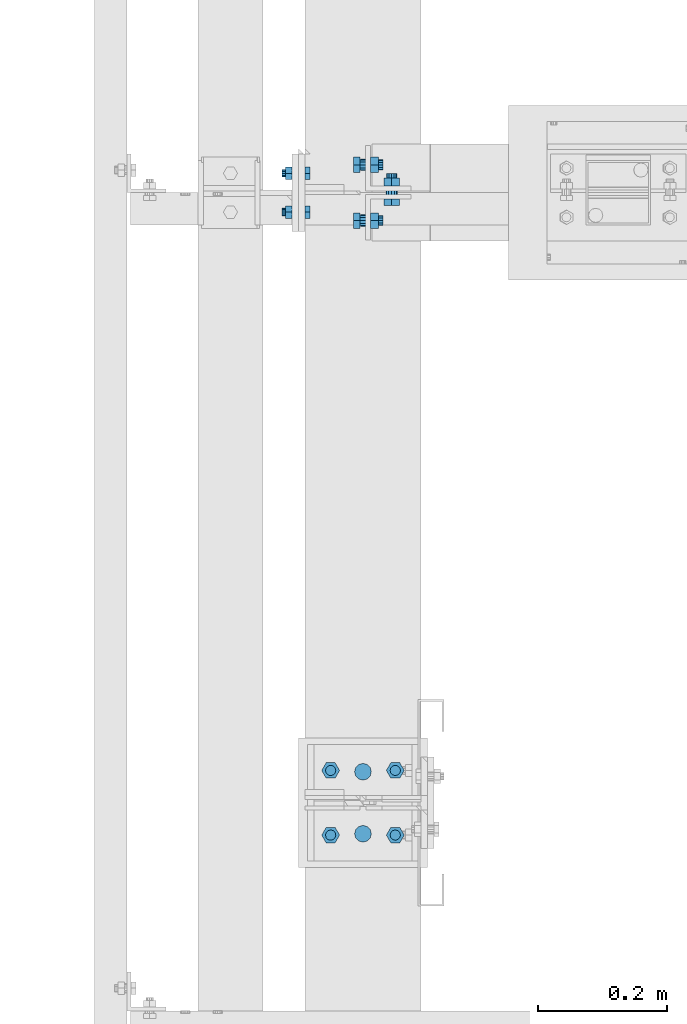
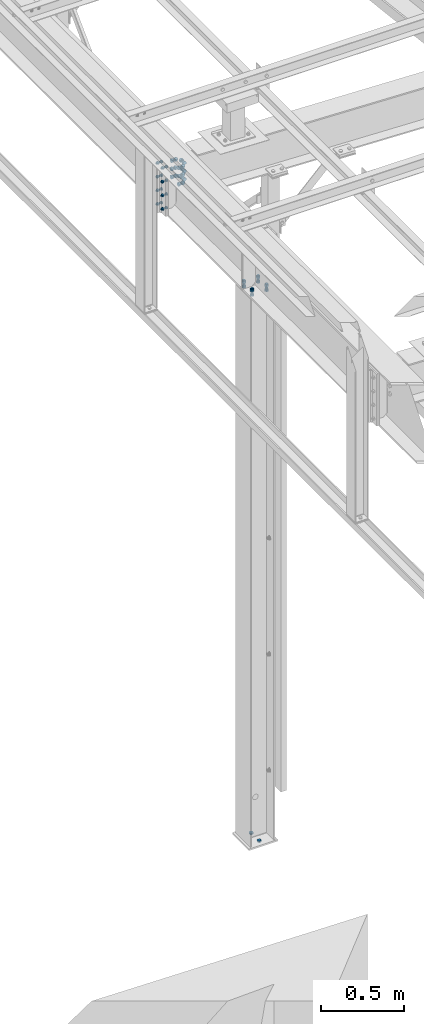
# One storey, part 68 of 3134: 7 mechanical fasteners, 4 elements without a shape of their own.
"""IFC2X3 building model written with IfcOpenShell, lengths in millimetres."""

from ifc_helpers import new_model, si_unit, frame, origin_with_axes, place, context, subcontext, project, spatial, faceted_brep, source, transform, mapped, material, type_object, element, aggregate, save


model = new_model("IFC2X3")

# Units and contexts
model_context = context("Model", 3, precision=1e-05, world=origin_with_axes())
body_context = subcontext(model_context, "Body", "Model", "MODEL_VIEW")
ifc_project = project(units=[si_unit("LENGTHUNIT", "METRE", prefix="MILLI"), si_unit("AREAUNIT", "SQUARE_METRE"), si_unit("VOLUMEUNIT", "CUBIC_METRE"), si_unit("MASSUNIT", "GRAM", prefix="KILO"), si_unit("TIMEUNIT", "SECOND"), si_unit("PLANEANGLEUNIT", "RADIAN"), si_unit("SOLIDANGLEUNIT", "STERADIAN"), si_unit("THERMODYNAMICTEMPERATUREUNIT", "DEGREE_CELSIUS"), si_unit("LUMINOUSINTENSITYUNIT", "LUMEN")], contexts=[model_context])

# Site, building, storey
site_placement = place(None, origin_with_axes())
site = spatial("IfcSite", under=ifc_project, at=site_placement, CompositionType="ELEMENT")
building_placement = place(site_placement, origin_with_axes())
building = spatial("IfcBuilding", under=site, at=building_placement, Name="Undefined", CompositionType="ELEMENT")
storey_placement = place(building_placement, origin_with_axes())
storey = spatial("IfcBuildingStorey", under=building, at=storey_placement, Name="Undefined", CompositionType="ELEMENT", Elevation=0.0)

# Assembly, mechanical fastener
assembly_1_placement = place(storey_placement, origin_with_axes())
assembly_1 = element("IfcElementAssembly", 1, at=assembly_1_placement, inside=storey, Name="HEA180", AssemblyPlace="NOTDEFINED", PredefinedType="RIGID_FRAME")
ifc_material = material(Name="8.8")
mechanical_fastener_type = type_object("IfcMechanicalFastenerType", Name="Bolt assembly")
shared_shape_1 = source(origin_with_axes(), body_context, "Body", "Brep", [
    faceted_brep([(13.0, 0.0, 0.0), (11.2583302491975, 0.0, 6.50000000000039), (6.49999999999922, 0.0, 11.2583302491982), (-1.34723677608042e-12, 0.0, 13.0), (-6.50000000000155, 0.0, 11.2583302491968), (-11.2583302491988, 0.0, 6.49999999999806), (-13.0, 0.0, -2.69447355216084e-12), (-11.2583302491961, 0.0, -6.50000000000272), (-6.4999999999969, 0.0, -11.2583302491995), (4.02727742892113e-12, 0.0, -13.0), (6.50000000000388, 0.0, -11.2583302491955), (11.2583302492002, 0.0, -6.49999999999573), (11.2583302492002, 12.1, -6.49999999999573), (6.50000000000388, 12.1, -11.2583302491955), (4.02727742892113e-12, 12.1, -13.0), (-6.4999999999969, 12.1, -11.2583302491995), (-11.2583302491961, 12.1, -6.50000000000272), (-13.0, 12.1, -2.69447355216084e-12), (-11.2583302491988, 12.1, 6.49999999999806), (-6.50000000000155, 12.1, 11.2583302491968), (-1.34723677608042e-12, 12.1, 13.0), (6.49999999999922, 12.1, 11.2583302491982), (11.2583302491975, 12.1, 6.50000000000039), (13.0, 12.1, 0.0)], [[[0, 1, 2, 3, 4, 5, 6, 7, 8, 9, 10, 11]], [[12, 13, 14, 15, 16, 17, 18, 19, 20, 21, 22, 23]], [[0, 23, 22, 1]], [[1, 22, 21, 2]], [[2, 21, 20, 3]], [[3, 20, 19, 4]], [[4, 19, 18, 5]], [[5, 18, 17, 6]], [[6, 17, 16, 7]], [[7, 16, 15, 8]], [[8, 15, 14, 9]], [[9, 14, 13, 10]], [[10, 13, 12, 11]], [[11, 12, 23, 0]]]),
])
mechanical_fastener_1_placement = place(assembly_1_placement, frame((0.0, 26100.0, -400.0), z_axis=(0.0, 1.0, 0.0), x_axis=(-1.0, 0.0, 0.0)))
mechanical_fastener_1 = element("IfcMechanicalFastener", 2, at=mechanical_fastener_1_placement, type_object=mechanical_fastener_type, material=ifc_material, Name="Bolt assembly", NominalDiameter=24.0, NominalLength=12.0, context=body_context, shape_type="MappedRepresentation", body=[
    mapped(shared_shape_1, transform((0.0, 0.0, -48.0))),
    mapped(shared_shape_1, transform((0.0, 0.0, 48.0))),
])

assembly_2_placement = place(storey_placement, origin_with_axes())
assembly_2 = element("IfcElementAssembly", 3, at=assembly_2_placement, inside=storey, Name="IPE400", AssemblyPlace="NOTDEFINED", PredefinedType="RIGID_FRAME")
shared_shape_2 = source(origin_with_axes(), body_context, "Body", "Brep", [
    faceted_brep([(10.9696551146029, -18.0, 0.0), (5.48482755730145, -18.0, 9.5), (-5.48482755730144, -18.0, 9.5), (-10.9696551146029, -18.0, 1.34339530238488e-15), (-5.48482755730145, -18.0, -9.5), (5.48482755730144, -18.0, -9.50000000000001), (5.48482755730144, -10.0, -9.50000000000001), (-5.48482755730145, -10.0, -9.5), (-10.9696551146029, -10.0, 1.34339530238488e-15), (-5.48482755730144, -10.0, 9.5), (5.48482755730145, -10.0, 9.5), (10.9696551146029, -10.0, 0.0), (6.0, -10.0, 0.0), (5.19615242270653, -10.0, 3.00000000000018), (2.99999999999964, -10.0, 5.19615242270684), (-6.21801588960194e-13, -10.0, 6.0), (-3.00000000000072, -10.0, 5.19615242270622), (-5.19615242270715, -10.0, 2.9999999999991), (-6.0, -10.0, -1.24360317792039e-12), (-5.19615242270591, -10.0, -3.00000000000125), (-2.99999999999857, -10.0, -5.19615242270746), (1.85874342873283e-12, -10.0, -6.0), (3.00000000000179, -10.0, -5.1961524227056), (5.19615242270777, -10.0, -2.99999999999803), (5.19615242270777, 24.9999999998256, -2.99999999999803), (3.00000000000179, 24.9999999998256, -5.1961524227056), (1.85874342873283e-12, 24.9999999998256, -6.0), (-2.99999999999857, 24.9999999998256, -5.19615242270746), (-5.19615242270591, 24.9999999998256, -3.00000000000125), (-6.0, 24.9999999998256, -1.24360317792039e-12), (-5.19615242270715, 24.9999999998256, 2.9999999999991), (-3.00000000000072, 24.9999999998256, 5.19615242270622), (-6.21801588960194e-13, 24.9999999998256, 6.0), (2.99999999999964, 24.9999999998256, 5.19615242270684), (5.19615242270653, 24.9999999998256, 3.00000000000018), (6.0, 24.9999999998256, 0.0), (10.9696551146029, 10.0, 0.0), (5.48482755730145, 10.0, 9.5), (-5.48482755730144, 10.0, 9.5), (-10.9696551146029, 10.0, 1.34339530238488e-15), (-5.48482755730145, 10.0, -9.5), (5.48482755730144, 10.0, -9.50000000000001), (5.48482755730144, 20.0, -9.50000000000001), (-5.48482755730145, 20.0, -9.5), (-10.9696551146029, 20.0, 1.34339530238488e-15), (-5.48482755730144, 20.0, 9.5), (5.48482755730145, 20.0, 9.5), (10.9696551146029, 20.0, 0.0)], [[[0, 1, 2, 3, 4, 5]], [[6, 7, 8, 9, 10, 11]], [[0, 11, 10, 1]], [[1, 10, 9, 2]], [[2, 9, 8, 3]], [[3, 8, 7, 4]], [[4, 7, 6, 5]], [[5, 6, 11, 0]], [[12, 13, 14, 15, 16, 17, 18, 19, 20, 21, 22, 23]], [[24, 25, 26, 27, 28, 29, 30, 31, 32, 33, 34, 35]], [[12, 35, 34, 13]], [[13, 34, 33, 14]], [[14, 33, 32, 15]], [[15, 32, 31, 16]], [[16, 31, 30, 17]], [[17, 30, 29, 18]], [[18, 29, 28, 19]], [[19, 28, 27, 20]], [[20, 27, 26, 21]], [[21, 26, 25, 22]], [[22, 25, 24, 23]], [[23, 24, 35, 12]], [[36, 37, 38, 39, 40, 41]], [[42, 43, 44, 45, 46, 47]], [[36, 47, 46, 37]], [[37, 46, 45, 38]], [[38, 45, 44, 39]], [[39, 44, 43, 40]], [[40, 43, 42, 41]], [[41, 42, 47, 36]]]),
    faceted_brep([(7.0, -0.1, 0.0), (6.06217782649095, -0.1, 3.50000000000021), (3.49999999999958, -0.1, 6.06217782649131), (-7.25435187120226e-13, -0.1, 7.0), (-3.50000000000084, -0.1, 6.06217782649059), (-6.06217782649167, -0.1, 3.49999999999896), (-7.0, -0.1, -1.45087037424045e-12), (-6.06217782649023, -0.1, -3.50000000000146), (-3.49999999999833, -0.1, -6.06217782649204), (2.1685340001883e-12, -0.1, -7.0), (3.50000000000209, -0.1, -6.06217782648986), (6.0621778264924, -0.1, -3.4999999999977), (6.0621778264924, 10.0, -3.4999999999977), (3.50000000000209, 10.0, -6.06217782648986), (2.1685340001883e-12, 10.0, -7.0), (-3.49999999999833, 10.0, -6.06217782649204), (-6.06217782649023, 10.0, -3.50000000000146), (-7.0, 10.0, -1.45087037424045e-12), (-6.06217782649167, 10.0, 3.49999999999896), (-3.50000000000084, 10.0, 6.06217782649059), (-7.25435187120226e-13, 10.0, 7.0), (3.49999999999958, 10.0, 6.06217782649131), (6.06217782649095, 10.0, 3.50000000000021), (7.0, 10.0, 0.0), (7.0, -9.89999913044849, 0.0), (6.06217782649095, -9.89999913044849, 3.50000000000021), (3.49999999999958, -9.89999913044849, 6.06217782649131), (-7.25435187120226e-13, -9.89999913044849, 7.0), (-3.50000000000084, -9.89999913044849, 6.06217782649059), (-6.06217782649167, -9.89999913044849, 3.49999999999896), (-7.0, -9.89999913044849, -1.45087037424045e-12), (-6.06217782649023, -9.89999913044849, -3.50000000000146), (-3.49999999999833, -9.89999913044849, -6.06217782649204), (2.1685340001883e-12, -9.89999913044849, -7.0), (3.50000000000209, -9.89999913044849, -6.06217782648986), (6.0621778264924, -9.89999913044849, -3.4999999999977), (6.0621778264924, 0.0999999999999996, -3.4999999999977), (3.50000000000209, 0.0999999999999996, -6.06217782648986), (2.1685340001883e-12, 0.0999999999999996, -7.0), (-3.49999999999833, 0.0999999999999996, -6.06217782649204), (-6.06217782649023, 0.0999999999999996, -3.50000000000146), (-7.0, 0.0999999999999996, -1.45087037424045e-12), (-6.06217782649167, 0.0999999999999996, 3.49999999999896), (-3.50000000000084, 0.0999999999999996, 6.06217782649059), (-7.25435187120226e-13, 0.0999999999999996, 7.0), (3.49999999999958, 0.0999999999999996, 6.06217782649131), (6.06217782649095, 0.0999999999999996, 3.50000000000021), (7.0, 0.0999999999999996, 0.0)], [[[0, 1, 2, 3, 4, 5, 6, 7, 8, 9, 10, 11]], [[12, 13, 14, 15, 16, 17, 18, 19, 20, 21, 22, 23]], [[0, 23, 22, 1]], [[1, 22, 21, 2]], [[2, 21, 20, 3]], [[3, 20, 19, 4]], [[4, 19, 18, 5]], [[5, 18, 17, 6]], [[6, 17, 16, 7]], [[7, 16, 15, 8]], [[8, 15, 14, 9]], [[9, 14, 13, 10]], [[10, 13, 12, 11]], [[11, 12, 23, 0]], [[24, 25, 26, 27, 28, 29, 30, 31, 32, 33, 34, 35]], [[36, 37, 38, 39, 40, 41, 42, 43, 44, 45, 46, 47]], [[24, 47, 46, 25]], [[25, 46, 45, 26]], [[26, 45, 44, 27]], [[27, 44, 43, 28]], [[28, 43, 42, 29]], [[29, 42, 41, 30]], [[30, 41, 40, 31]], [[31, 40, 39, 32]], [[32, 39, 38, 33]], [[33, 38, 37, 34]], [[34, 37, 36, 35]], [[35, 36, 47, 24]]]),
])
mechanical_fastener_2_placement = place(assembly_2_placement, frame((-100.0, 27043.75, 3990.0), z_axis=(0.0, 1.0, 0.0), x_axis=(0.0, 0.0, -1.0)))
mechanical_fastener_2 = element("IfcMechanicalFastener", 4, at=mechanical_fastener_2_placement, type_object=mechanical_fastener_type, material=ifc_material, Name="Bolt assembly", NominalDiameter=12.0, NominalLength=35.0, context=body_context, shape_type="MappedRepresentation", body=[
    mapped(shared_shape_2, transform((0.0, 4.54747350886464e-13, -30.0000000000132))),
    mapped(shared_shape_2, transform((100.0, 0.0, -30.0))),
    mapped(shared_shape_2, transform((200.0, 0.0, -30.0))),
    mapped(shared_shape_2, transform((300.0, 0.0, -30.0))),
    mapped(shared_shape_2, transform((0.0, 4.54747350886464e-13, 30.0000000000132))),
    mapped(shared_shape_2, transform((100.0, 0.0, 30.0))),
    mapped(shared_shape_2, transform((200.0, 0.0, 30.0))),
    mapped(shared_shape_2, transform((300.0, 0.0, 30.0))),
])
aggregate(assembly_2, [mechanical_fastener_2])

# Mechanical fastener
shared_shape_3 = source(origin_with_axes(), body_context, "Body", "Brep", [
    faceted_brep([(13.856406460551, -10.0, 0.0), (6.92820323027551, -10.0, 12.0), (-6.92820323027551, -10.0, 12.0), (-13.856406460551, -10.0, 1.69692038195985e-15), (-6.92820323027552, -10.0, -12.0), (6.9282032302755, -10.0, -12.0), (6.9282032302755, 0.0, -12.0), (-6.92820323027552, 0.0, -12.0), (-13.856406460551, 0.0, 1.69692038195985e-15), (-6.92820323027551, 0.0, 12.0), (6.92820323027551, 0.0, 12.0), (13.856406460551, 0.0, 0.0), (8.0, 0.0, 0.0), (6.92820323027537, 0.0, 4.00000000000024), (3.99999999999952, 0.0, 6.92820323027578), (-8.29068785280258e-13, 0.0, 8.0), (-4.00000000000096, 0.0, 6.92820323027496), (-6.9282032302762, 0.0, 3.99999999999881), (-8.0, 0.0, -1.65813757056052e-12), (-6.92820323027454, 0.0, -4.00000000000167), (-3.99999999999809, 0.0, -6.92820323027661), (2.47832457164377e-12, 0.0, -8.0), (4.00000000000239, 0.0, -6.92820323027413), (6.92820323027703, 0.0, -3.99999999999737), (6.92820323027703, 45.0, -3.99999999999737), (4.00000000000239, 45.0, -6.92820323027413), (2.47832457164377e-12, 45.0, -8.0), (-3.99999999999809, 45.0, -6.92820323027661), (-6.92820323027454, 45.0, -4.00000000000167), (-8.0, 45.0, -1.65813757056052e-12), (-6.9282032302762, 45.0, 3.99999999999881), (-4.00000000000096, 45.0, 6.92820323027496), (-8.29068785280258e-13, 45.0, 8.0), (3.99999999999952, 45.0, 6.92820323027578), (6.92820323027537, 45.0, 4.00000000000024), (8.0, 45.0, 0.0), (13.856406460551, 25.5, 0.0), (6.92820323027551, 25.5, 12.0), (-6.92820323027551, 25.5, 12.0), (-13.856406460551, 25.5, 1.69692038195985e-15), (-6.92820323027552, 25.5, -12.0), (6.9282032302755, 25.5, -12.0), (6.9282032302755, 38.5, -12.0), (-6.92820323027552, 38.5, -12.0), (-13.856406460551, 38.5, 1.69692038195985e-15), (-6.92820323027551, 38.5, 12.0), (6.92820323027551, 38.5, 12.0), (13.856406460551, 38.5, 0.0)], [[[0, 1, 2, 3, 4, 5]], [[6, 7, 8, 9, 10, 11]], [[0, 11, 10, 1]], [[1, 10, 9, 2]], [[2, 9, 8, 3]], [[3, 8, 7, 4]], [[4, 7, 6, 5]], [[5, 6, 11, 0]], [[12, 13, 14, 15, 16, 17, 18, 19, 20, 21, 22, 23]], [[24, 25, 26, 27, 28, 29, 30, 31, 32, 33, 34, 35]], [[12, 35, 34, 13]], [[13, 34, 33, 14]], [[14, 33, 32, 15]], [[15, 32, 31, 16]], [[16, 31, 30, 17]], [[17, 30, 29, 18]], [[18, 29, 28, 19]], [[19, 28, 27, 20]], [[20, 27, 26, 21]], [[21, 26, 25, 22]], [[22, 25, 24, 23]], [[23, 24, 35, 12]], [[36, 37, 38, 39, 40, 41]], [[42, 43, 44, 45, 46, 47]], [[36, 47, 46, 37]], [[37, 46, 45, 38]], [[38, 45, 44, 39]], [[39, 44, 43, 40]], [[40, 43, 42, 41]], [[41, 42, 47, 36]]]),
    faceted_brep([(9.0, 11.9, 0.0), (7.79422863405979, 11.9, 4.50000000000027), (4.49999999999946, 11.9, 7.79422863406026), (-9.3270238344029e-13, 11.9, 9.0), (-4.50000000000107, 11.9, 7.79422863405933), (-7.79422863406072, 11.9, 4.49999999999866), (-9.0, 11.9, -1.86540476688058e-12), (-7.79422863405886, 11.9, -4.50000000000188), (-4.49999999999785, 11.9, -7.79422863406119), (2.78811514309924e-12, 11.9, -9.0), (4.50000000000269, 11.9, -7.7942286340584), (7.79422863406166, 11.9, -4.49999999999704), (7.79422863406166, 25.5, -4.49999999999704), (4.50000000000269, 25.5, -7.7942286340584), (2.78811514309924e-12, 25.5, -9.0), (-4.49999999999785, 25.5, -7.79422863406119), (-7.79422863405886, 25.5, -4.50000000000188), (-9.0, 25.5, -1.86540476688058e-12), (-7.79422863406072, 25.5, 4.49999999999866), (-4.50000000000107, 25.5, 7.79422863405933), (-9.3270238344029e-13, 25.5, 9.0), (4.49999999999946, 25.5, 7.79422863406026), (7.79422863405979, 25.5, 4.50000000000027), (9.0, 25.5, 0.0), (9.0, 0.100000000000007, 0.0), (7.79422863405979, 0.100000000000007, 4.50000000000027), (4.49999999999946, 0.100000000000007, 7.79422863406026), (-9.3270238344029e-13, 0.100000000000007, 9.0), (-4.50000000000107, 0.100000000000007, 7.79422863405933), (-7.79422863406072, 0.100000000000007, 4.49999999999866), (-9.0, 0.100000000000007, -1.86540476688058e-12), (-7.79422863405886, 0.100000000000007, -4.50000000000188), (-4.49999999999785, 0.100000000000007, -7.79422863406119), (2.78811514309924e-12, 0.100000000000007, -9.0), (4.50000000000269, 0.100000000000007, -7.7942286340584), (7.79422863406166, 0.100000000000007, -4.49999999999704), (7.79422863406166, 12.1, -4.49999999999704), (4.50000000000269, 12.1, -7.7942286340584), (2.78811514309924e-12, 12.1, -9.0), (-4.49999999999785, 12.1, -7.79422863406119), (-7.79422863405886, 12.1, -4.50000000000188), (-9.0, 12.1, -1.86540476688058e-12), (-7.79422863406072, 12.1, 4.49999999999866), (-4.50000000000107, 12.1, 7.79422863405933), (-9.3270238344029e-13, 12.1, 9.0), (4.49999999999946, 12.1, 7.79422863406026), (7.79422863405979, 12.1, 4.50000000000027), (9.0, 12.1, 0.0)], [[[0, 1, 2, 3, 4, 5, 6, 7, 8, 9, 10, 11]], [[12, 13, 14, 15, 16, 17, 18, 19, 20, 21, 22, 23]], [[0, 23, 22, 1]], [[1, 22, 21, 2]], [[2, 21, 20, 3]], [[3, 20, 19, 4]], [[4, 19, 18, 5]], [[5, 18, 17, 6]], [[6, 17, 16, 7]], [[7, 16, 15, 8]], [[8, 15, 14, 9]], [[9, 14, 13, 10]], [[10, 13, 12, 11]], [[11, 12, 23, 0]], [[24, 25, 26, 27, 28, 29, 30, 31, 32, 33, 34, 35]], [[36, 37, 38, 39, 40, 41, 42, 43, 44, 45, 46, 47]], [[24, 47, 46, 25]], [[25, 46, 45, 26]], [[26, 45, 44, 27]], [[27, 44, 43, 28]], [[28, 43, 42, 29]], [[29, 42, 41, 30]], [[30, 41, 40, 31]], [[31, 40, 39, 32]], [[32, 39, 38, 33]], [[33, 38, 37, 34]], [[34, 37, 36, 35]], [[35, 36, 47, 24]]]),
])
mechanical_fastener_3_placement = place(assembly_1_placement, frame((50.0, 26050.0, 3628.0), z_axis=(0.0, 1.0, 0.0), x_axis=(-1.0, 0.0, 0.0)))
mechanical_fastener_3 = element("IfcMechanicalFastener", 5, at=mechanical_fastener_3_placement, type_object=mechanical_fastener_type, material=ifc_material, Name="Bolt assembly", NominalDiameter=16.0, NominalLength=45.0, context=body_context, shape_type="MappedRepresentation", body=[
    mapped(shared_shape_3, transform((0.0, 0.0, 0.0))),
    mapped(shared_shape_3, transform((100.0, 0.0, 0.0))),
])

mechanical_fastener_4_placement = place(assembly_1_placement, frame((50.0, 26150.0, 3628.0), z_axis=(0.0, 1.0, 0.0), x_axis=(-1.0, 0.0, 0.0)))
mechanical_fastener_4 = element("IfcMechanicalFastener", 6, at=mechanical_fastener_4_placement, type_object=mechanical_fastener_type, material=ifc_material, Name="Bolt assembly", NominalDiameter=16.0, NominalLength=45.0, context=body_context, shape_type="MappedRepresentation", body=[
    mapped(shared_shape_3, transform((0.0, 0.0, 0.0))),
    mapped(shared_shape_3, transform((100.0, 0.0, 0.0))),
])

aggregate(assembly_1, [mechanical_fastener_3, mechanical_fastener_4, mechanical_fastener_1])

# Assembly, mechanical fastener
assembly_3_placement = place(storey_placement, origin_with_axes())
assembly_3 = element("IfcElementAssembly", 7, at=assembly_3_placement, inside=storey, AssemblyPlace="NOTDEFINED", PredefinedType="RIGID_FRAME")
shared_shape_4 = source(origin_with_axes(), body_context, "Body", "Brep", [
    faceted_brep([(13.856406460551, -18.5936482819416, 0.0), (6.92820323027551, -18.5936482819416, 12.0), (-6.92820323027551, -18.5936482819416, 12.0), (-13.856406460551, -18.5936482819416, 1.69692038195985e-15), (-6.92820323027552, -18.5936482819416, -12.0), (6.9282032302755, -18.5936482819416, -12.0), (6.9282032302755, -8.59364828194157, -12.0), (-6.92820323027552, -8.59364828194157, -12.0), (-13.856406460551, -8.59364828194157, 1.69692038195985e-15), (-6.92820323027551, -8.59364828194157, 12.0), (6.92820323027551, -8.59364828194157, 12.0), (13.856406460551, -8.59364828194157, 0.0), (8.0, -8.59364828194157, 0.0), (6.92820323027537, -8.59364828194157, 4.00000000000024), (3.99999999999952, -8.59364828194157, 6.92820323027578), (-8.29068785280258e-13, -8.59364828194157, 8.0), (-4.00000000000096, -8.59364828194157, 6.92820323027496), (-6.9282032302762, -8.59364828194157, 3.99999999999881), (-8.0, -8.59364828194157, -1.65813757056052e-12), (-6.92820323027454, -8.59364828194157, -4.00000000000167), (-3.99999999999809, -8.59364828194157, -6.92820323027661), (2.47832457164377e-12, -8.59364828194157, -8.0), (4.00000000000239, -8.59364828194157, -6.92820323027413), (6.92820323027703, -8.59364828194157, -3.99999999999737), (6.92820323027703, 26.4063517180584, -3.99999999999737), (4.00000000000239, 26.4063517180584, -6.92820323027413), (2.47832457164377e-12, 26.4063517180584, -8.0), (-3.99999999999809, 26.4063517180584, -6.92820323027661), (-6.92820323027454, 26.4063517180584, -4.00000000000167), (-8.0, 26.4063517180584, -1.65813757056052e-12), (-6.9282032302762, 26.4063517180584, 3.99999999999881), (-4.00000000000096, 26.4063517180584, 6.92820323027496), (-8.29068785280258e-13, 26.4063517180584, 8.0), (3.99999999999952, 26.4063517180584, 6.92820323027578), (6.92820323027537, 26.4063517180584, 4.00000000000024), (8.0, 26.4063517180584, 0.0), (13.856406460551, 7.0, 0.0), (6.92820323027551, 7.0, 12.0), (-6.92820323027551, 7.0, 12.0), (-13.856406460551, 7.0, 1.69692038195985e-15), (-6.92820323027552, 7.0, -12.0), (6.9282032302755, 7.0, -12.0), (6.9282032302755, 20.0, -12.0), (-6.92820323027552, 20.0, -12.0), (-13.856406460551, 20.0, 1.69692038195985e-15), (-6.92820323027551, 20.0, 12.0), (6.92820323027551, 20.0, 12.0), (13.856406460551, 20.0, 0.0)], [[[0, 1, 2, 3, 4, 5]], [[6, 7, 8, 9, 10, 11]], [[0, 11, 10, 1]], [[1, 10, 9, 2]], [[2, 9, 8, 3]], [[3, 8, 7, 4]], [[4, 7, 6, 5]], [[5, 6, 11, 0]], [[12, 13, 14, 15, 16, 17, 18, 19, 20, 21, 22, 23]], [[24, 25, 26, 27, 28, 29, 30, 31, 32, 33, 34, 35]], [[12, 35, 34, 13]], [[13, 34, 33, 14]], [[14, 33, 32, 15]], [[15, 32, 31, 16]], [[16, 31, 30, 17]], [[17, 30, 29, 18]], [[18, 29, 28, 19]], [[19, 28, 27, 20]], [[20, 27, 26, 21]], [[21, 26, 25, 22]], [[22, 25, 24, 23]], [[23, 24, 35, 12]], [[36, 37, 38, 39, 40, 41]], [[42, 43, 44, 45, 46, 47]], [[36, 47, 46, 37]], [[37, 46, 45, 38]], [[38, 45, 44, 39]], [[39, 44, 43, 40]], [[40, 43, 42, 41]], [[41, 42, 47, 36]]]),
    faceted_brep([(9.0, -8.49364828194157, 0.0), (7.79422863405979, -8.49364828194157, 4.50000000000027), (4.49999999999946, -8.49364828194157, 7.79422863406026), (-9.3270238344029e-13, -8.49364828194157, 9.0), (-4.50000000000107, -8.49364828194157, 7.79422863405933), (-7.79422863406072, -8.49364828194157, 4.49999999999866), (-9.0, -8.49364828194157, -1.86540476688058e-12), (-7.79422863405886, -8.49364828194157, -4.50000000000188), (-4.49999999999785, -8.49364828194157, -7.79422863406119), (2.78811514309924e-12, -8.49364828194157, -9.0), (4.50000000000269, -8.49364828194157, -7.7942286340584), (7.79422863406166, -8.49364828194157, -4.49999999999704), (7.79422863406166, 0.10635209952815, -4.49999999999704), (4.50000000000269, 0.10635209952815, -7.7942286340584), (2.78811514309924e-12, 0.10635209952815, -9.0), (-4.49999999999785, 0.10635209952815, -7.79422863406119), (-7.79422863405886, 0.10635209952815, -4.50000000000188), (-9.0, 0.10635209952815, -1.86540476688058e-12), (-7.79422863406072, 0.10635209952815, 4.49999999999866), (-4.50000000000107, 0.10635209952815, 7.79422863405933), (-9.3270238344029e-13, 0.10635209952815, 9.0), (4.49999999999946, 0.10635209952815, 7.79422863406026), (7.79422863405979, 0.10635209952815, 4.50000000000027), (9.0, 0.10635209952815, 0.0), (9.0, -0.1, 0.0), (7.79422863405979, -0.1, 4.50000000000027), (4.49999999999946, -0.1, 7.79422863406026), (-9.3270238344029e-13, -0.1, 9.0), (-4.50000000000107, -0.1, 7.79422863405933), (-7.79422863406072, -0.1, 4.49999999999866), (-9.0, -0.1, -1.86540476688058e-12), (-7.79422863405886, -0.1, -4.50000000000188), (-4.49999999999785, -0.1, -7.79422863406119), (2.78811514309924e-12, -0.1, -9.0), (4.50000000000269, -0.1, -7.7942286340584), (7.79422863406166, -0.1, -4.49999999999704), (7.79422863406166, 7.0, -4.49999999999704), (4.50000000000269, 7.0, -7.7942286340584), (2.78811514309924e-12, 7.0, -9.0), (-4.49999999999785, 7.0, -7.79422863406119), (-7.79422863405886, 7.0, -4.50000000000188), (-9.0, 7.0, -1.86540476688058e-12), (-7.79422863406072, 7.0, 4.49999999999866), (-4.50000000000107, 7.0, 7.79422863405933), (-9.3270238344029e-13, 7.0, 9.0), (4.49999999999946, 7.0, 7.79422863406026), (7.79422863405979, 7.0, 4.50000000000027), (9.0, 7.0, 0.0)], [[[0, 1, 2, 3, 4, 5, 6, 7, 8, 9, 10, 11]], [[12, 13, 14, 15, 16, 17, 18, 19, 20, 21, 22, 23]], [[0, 23, 22, 1]], [[1, 22, 21, 2]], [[2, 21, 20, 3]], [[3, 20, 19, 4]], [[4, 19, 18, 5]], [[5, 18, 17, 6]], [[6, 17, 16, 7]], [[7, 16, 15, 8]], [[8, 15, 14, 9]], [[9, 14, 13, 10]], [[10, 13, 12, 11]], [[11, 12, 23, 0]], [[24, 25, 26, 27, 28, 29, 30, 31, 32, 33, 34, 35]], [[36, 37, 38, 39, 40, 41, 42, 43, 44, 45, 46, 47]], [[24, 47, 46, 25]], [[25, 46, 45, 26]], [[26, 45, 44, 27]], [[27, 44, 43, 28]], [[28, 43, 42, 29]], [[29, 42, 41, 30]], [[30, 41, 40, 31]], [[31, 40, 39, 32]], [[32, 39, 38, 33]], [[33, 38, 37, 34]], [[34, 37, 36, 35]], [[35, 36, 47, 24]]]),
])
mechanical_fastener_5_placement = place(assembly_3_placement, frame((4.29364809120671, 27086.79, 3841.86727512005), z_axis=(0.0, 1.0, 0.0), x_axis=(0.0, 0.0, 1.0)))
mechanical_fastener_5 = element("IfcMechanicalFastener", 8, at=mechanical_fastener_5_placement, type_object=mechanical_fastener_type, material=ifc_material, Name="Bolt assembly", NominalDiameter=16.0, NominalLength=35.0, context=body_context, shape_type="MappedRepresentation", body=[
    mapped(shared_shape_4, transform((0.0, 0.0, 0.0))),
    mapped(shared_shape_4, transform((59.9999999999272, 0.0, 5.40239852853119e-10))),
    mapped(shared_shape_4, transform((120.0, 0.0, 0.0))),
])
aggregate(assembly_3, [mechanical_fastener_5])

# Assembly, mechanical fasteners
assembly_4_placement = place(storey_placement, origin_with_axes())
assembly_4 = element("IfcElementAssembly", 9, at=assembly_4_placement, inside=storey, AssemblyPlace="NOTDEFINED", PredefinedType="RIGID_FRAME")
mechanical_fastener_6_placement = place(assembly_4_placement, frame((4.29364809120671, 27000.71, 3841.86727512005), z_axis=(0.0, 1.0, 0.0), x_axis=(0.0, 0.0, 1.0)))
mechanical_fastener_6 = element("IfcMechanicalFastener", 10, at=mechanical_fastener_6_placement, type_object=mechanical_fastener_type, material=ifc_material, Name="Bolt assembly", NominalDiameter=16.0, NominalLength=35.0, context=body_context, shape_type="MappedRepresentation", body=[
    mapped(shared_shape_4, transform((0.0, 0.0, 0.0))),
    mapped(shared_shape_4, transform((59.9999999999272, 0.0, 5.40239852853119e-10))),
    mapped(shared_shape_4, transform((120.0, 0.0, 0.0))),
])
shared_shape_5 = source(origin_with_axes(), body_context, "Body", "Brep", [
    faceted_brep([(13.856406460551, -20.0400000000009, 0.0), (6.92820323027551, -20.0400000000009, 12.0), (-6.92820323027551, -20.0400000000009, 12.0), (-13.856406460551, -20.0400000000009, 1.69692038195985e-15), (-6.92820323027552, -20.0400000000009, -12.0), (6.9282032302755, -20.0400000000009, -12.0), (6.9282032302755, -10.0400000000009, -12.0), (-6.92820323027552, -10.0400000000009, -12.0), (-13.856406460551, -10.0400000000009, 1.69692038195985e-15), (-6.92820323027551, -10.0400000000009, 12.0), (6.92820323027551, -10.0400000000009, 12.0), (13.856406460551, -10.0400000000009, 0.0), (8.0, -10.0400000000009, 0.0), (6.92820323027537, -10.0400000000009, 4.00000000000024), (3.99999999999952, -10.0400000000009, 6.92820323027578), (-8.29068785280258e-13, -10.0400000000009, 8.0), (-4.00000000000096, -10.0400000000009, 6.92820323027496), (-6.9282032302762, -10.0400000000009, 3.99999999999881), (-8.0, -10.0400000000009, -1.65813757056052e-12), (-6.92820323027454, -10.0400000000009, -4.00000000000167), (-3.99999999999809, -10.0400000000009, -6.92820323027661), (2.47832457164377e-12, -10.0400000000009, -8.0), (4.00000000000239, -10.0400000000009, -6.92820323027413), (6.92820323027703, -10.0400000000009, -3.99999999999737), (6.92820323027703, 29.9599999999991, -3.99999999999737), (4.00000000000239, 29.9599999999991, -6.92820323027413), (2.47832457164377e-12, 29.9599999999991, -8.0), (-3.99999999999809, 29.9599999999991, -6.92820323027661), (-6.92820323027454, 29.9599999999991, -4.00000000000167), (-8.0, 29.9599999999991, -1.65813757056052e-12), (-6.9282032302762, 29.9599999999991, 3.99999999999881), (-4.00000000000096, 29.9599999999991, 6.92820323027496), (-8.29068785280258e-13, 29.9599999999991, 8.0), (3.99999999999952, 29.9599999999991, 6.92820323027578), (6.92820323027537, 29.9599999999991, 4.00000000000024), (8.0, 29.9599999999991, 0.0), (13.856406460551, 10.0400000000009, 0.0), (6.92820323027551, 10.0400000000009, 12.0), (-6.92820323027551, 10.0400000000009, 12.0), (-13.856406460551, 10.0400000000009, 1.69692038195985e-15), (-6.92820323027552, 10.0400000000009, -12.0), (6.9282032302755, 10.0400000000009, -12.0), (6.9282032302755, 23.0400000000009, -12.0), (-6.92820323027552, 23.0400000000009, -12.0), (-13.856406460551, 23.0400000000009, 1.69692038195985e-15), (-6.92820323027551, 23.0400000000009, 12.0), (6.92820323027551, 23.0400000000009, 12.0), (13.856406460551, 23.0400000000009, 0.0)], [[[0, 1, 2, 3, 4, 5]], [[6, 7, 8, 9, 10, 11]], [[0, 11, 10, 1]], [[1, 10, 9, 2]], [[2, 9, 8, 3]], [[3, 8, 7, 4]], [[4, 7, 6, 5]], [[5, 6, 11, 0]], [[12, 13, 14, 15, 16, 17, 18, 19, 20, 21, 22, 23]], [[24, 25, 26, 27, 28, 29, 30, 31, 32, 33, 34, 35]], [[12, 35, 34, 13]], [[13, 34, 33, 14]], [[14, 33, 32, 15]], [[15, 32, 31, 16]], [[16, 31, 30, 17]], [[17, 30, 29, 18]], [[18, 29, 28, 19]], [[19, 28, 27, 20]], [[20, 27, 26, 21]], [[21, 26, 25, 22]], [[22, 25, 24, 23]], [[23, 24, 35, 12]], [[36, 37, 38, 39, 40, 41]], [[42, 43, 44, 45, 46, 47]], [[36, 47, 46, 37]], [[37, 46, 45, 38]], [[38, 45, 44, 39]], [[39, 44, 43, 40]], [[40, 43, 42, 41]], [[41, 42, 47, 36]]]),
    faceted_brep([(9.0, -3.04999995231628, 0.0), (7.79422863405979, -3.04999995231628, 4.50000000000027), (4.49999999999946, -3.04999995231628, 7.79422863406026), (-9.3270238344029e-13, -3.04999995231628, 9.0), (-4.50000000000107, -3.04999995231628, 7.79422863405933), (-7.79422863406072, -3.04999995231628, 4.49999999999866), (-9.0, -3.04999995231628, -1.86540476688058e-12), (-7.79422863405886, -3.04999995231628, -4.50000000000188), (-4.49999999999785, -3.04999995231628, -7.79422863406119), (2.78811514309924e-12, -3.04999995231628, -9.0), (4.50000000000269, -3.04999995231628, -7.7942286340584), (7.79422863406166, -3.04999995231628, -4.49999999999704), (7.79422863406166, 3.04999995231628, -4.49999999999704), (4.50000000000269, 3.04999995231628, -7.7942286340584), (2.78811514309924e-12, 3.04999995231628, -9.0), (-4.49999999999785, 3.04999995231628, -7.79422863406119), (-7.79422863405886, 3.04999995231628, -4.50000000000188), (-9.0, 3.04999995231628, -1.86540476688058e-12), (-7.79422863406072, 3.04999995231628, 4.49999999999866), (-4.50000000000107, 3.04999995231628, 7.79422863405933), (-9.3270238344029e-13, 3.04999995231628, 9.0), (4.49999999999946, 3.04999995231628, 7.79422863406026), (7.79422863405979, 3.04999995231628, 4.50000000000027), (9.0, 3.04999995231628, 0.0), (9.0, -9.94000000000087, 0.0), (7.79422863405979, -9.94000000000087, 4.50000000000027), (4.49999999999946, -9.94000000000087, 7.79422863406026), (-9.3270238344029e-13, -9.94000000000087, 9.0), (-4.50000000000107, -9.94000000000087, 7.79422863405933), (-7.79422863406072, -9.94000000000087, 4.49999999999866), (-9.0, -9.94000000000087, -1.86540476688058e-12), (-7.79422863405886, -9.94000000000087, -4.50000000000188), (-4.49999999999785, -9.94000000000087, -7.79422863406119), (2.78811514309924e-12, -9.94000000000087, -9.0), (4.50000000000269, -9.94000000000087, -7.7942286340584), (7.79422863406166, -9.94000000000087, -4.49999999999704), (7.79422863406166, -2.94000000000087, -4.49999999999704), (4.50000000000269, -2.94000000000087, -7.7942286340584), (2.78811514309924e-12, -2.94000000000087, -9.0), (-4.49999999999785, -2.94000000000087, -7.79422863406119), (-7.79422863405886, -2.94000000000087, -4.50000000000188), (-9.0, -2.94000000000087, -1.86540476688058e-12), (-7.79422863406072, -2.94000000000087, 4.49999999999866), (-4.50000000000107, -2.94000000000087, 7.79422863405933), (-9.3270238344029e-13, -2.94000000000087, 9.0), (4.49999999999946, -2.94000000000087, 7.79422863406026), (7.79422863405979, -2.94000000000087, 4.50000000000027), (9.0, -2.94000000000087, 0.0), (9.0, 2.94000000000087, 0.0), (7.79422863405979, 2.94000000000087, 4.50000000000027), (4.49999999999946, 2.94000000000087, 7.79422863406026), (-9.3270238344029e-13, 2.94000000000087, 9.0), (-4.50000000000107, 2.94000000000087, 7.79422863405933), (-7.79422863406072, 2.94000000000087, 4.49999999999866), (-9.0, 2.94000000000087, -1.86540476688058e-12), (-7.79422863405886, 2.94000000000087, -4.50000000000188), (-4.49999999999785, 2.94000000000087, -7.79422863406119), (2.78811514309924e-12, 2.94000000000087, -9.0), (4.50000000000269, 2.94000000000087, -7.7942286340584), (7.79422863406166, 2.94000000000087, -4.49999999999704), (7.79422863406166, 10.0400000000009, -4.49999999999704), (4.50000000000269, 10.0400000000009, -7.7942286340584), (2.78811514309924e-12, 10.0400000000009, -9.0), (-4.49999999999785, 10.0400000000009, -7.79422863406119), (-7.79422863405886, 10.0400000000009, -4.50000000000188), (-9.0, 10.0400000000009, -1.86540476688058e-12), (-7.79422863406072, 10.0400000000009, 4.49999999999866), (-4.50000000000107, 10.0400000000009, 7.79422863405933), (-9.3270238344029e-13, 10.0400000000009, 9.0), (4.49999999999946, 10.0400000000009, 7.79422863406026), (7.79422863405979, 10.0400000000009, 4.50000000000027), (9.0, 10.0400000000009, 0.0)], [[[0, 1, 2, 3, 4, 5, 6, 7, 8, 9, 10, 11]], [[12, 13, 14, 15, 16, 17, 18, 19, 20, 21, 22, 23]], [[0, 23, 22, 1]], [[1, 22, 21, 2]], [[2, 21, 20, 3]], [[3, 20, 19, 4]], [[4, 19, 18, 5]], [[5, 18, 17, 6]], [[6, 17, 16, 7]], [[7, 16, 15, 8]], [[8, 15, 14, 9]], [[9, 14, 13, 10]], [[10, 13, 12, 11]], [[11, 12, 23, 0]], [[24, 25, 26, 27, 28, 29, 30, 31, 32, 33, 34, 35]], [[36, 37, 38, 39, 40, 41, 42, 43, 44, 45, 46, 47]], [[24, 47, 46, 25]], [[25, 46, 45, 26]], [[26, 45, 44, 27]], [[27, 44, 43, 28]], [[28, 43, 42, 29]], [[29, 42, 41, 30]], [[30, 41, 40, 31]], [[31, 40, 39, 32]], [[32, 39, 38, 33]], [[33, 38, 37, 34]], [[34, 37, 36, 35]], [[35, 36, 47, 24]], [[48, 49, 50, 51, 52, 53, 54, 55, 56, 57, 58, 59]], [[60, 61, 62, 63, 64, 65, 66, 67, 68, 69, 70, 71]], [[48, 71, 70, 49]], [[49, 70, 69, 50]], [[50, 69, 68, 51]], [[51, 68, 67, 52]], [[52, 67, 66, 53]], [[53, 66, 65, 54]], [[54, 65, 64, 55]], [[55, 64, 63, 56]], [[56, 63, 62, 57]], [[57, 62, 61, 58]], [[58, 61, 60, 59]], [[59, 60, 71, 48]]]),
])
mechanical_fastener_7_placement = place(assembly_4_placement, frame((44.2936480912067, 27043.75, 3841.86727512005), z_axis=(-1.0, 0.0, 0.0), x_axis=(0.0, 0.0, 1.0)))
mechanical_fastener_7 = element("IfcMechanicalFastener", 11, at=mechanical_fastener_7_placement, type_object=mechanical_fastener_type, material=ifc_material, Name="Bolt assembly", NominalDiameter=16.0, NominalLength=40.0, context=body_context, shape_type="MappedRepresentation", body=[
    mapped(shared_shape_5, transform((0.0, 0.0, 0.0))),
    mapped(shared_shape_5, transform((59.9999999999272, 0.0, 5.40239852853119e-10))),
    mapped(shared_shape_5, transform((120.0, 0.0, 0.0))),
])
aggregate(assembly_4, [mechanical_fastener_6, mechanical_fastener_7])

save(model, "model.ifc")
